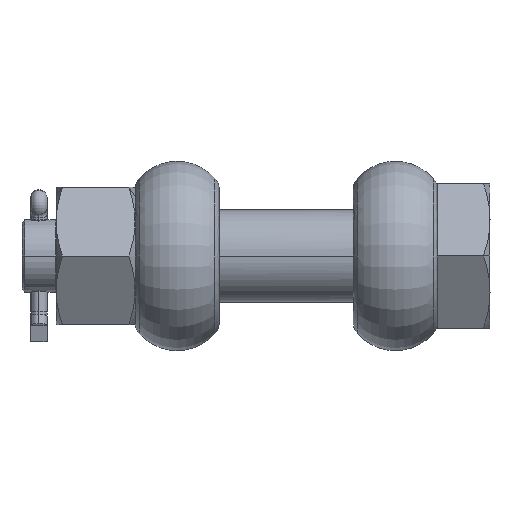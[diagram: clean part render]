
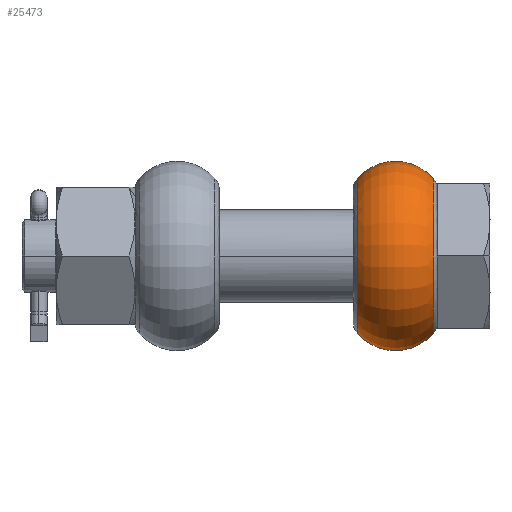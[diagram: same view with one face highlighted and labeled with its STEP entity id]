
A CAD part, front view. The second image highlights one B-rep face of the part: STEP entity #25473.
In plain terms, the highlighted toroidal (fillet/blend) face has major radius 16.8 mm and minor radius 19.2 mm.
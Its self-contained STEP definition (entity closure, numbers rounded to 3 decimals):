
#16616 = TOROIDAL_SURFACE ( 'NONE', #16684, 16.8, 19.2 ) ;
#16621 = FACE_OUTER_BOUND ( 'NONE', #25476, .T. ) ;
#16679 = DIRECTION ( 'NONE',  ( 0., 0., -1. ) ) ;
#16681 = DIRECTION ( 'NONE',  ( 1., 0., 0. ) ) ;
#16682 = CARTESIAN_POINT ( 'NONE',  ( 41.5, 0., 0. ) ) ;
#16684 = AXIS2_PLACEMENT_3D ( 'NONE', #16682, #16681, #16679 ) ;
#16789 = DIRECTION ( 'NONE',  ( 0., -1., 0. ) ) ;
#16790 = DIRECTION ( 'NONE',  ( 1., 0., 0. ) ) ;
#16791 = CARTESIAN_POINT ( 'NONE',  ( 55.9, 0., 0. ) ) ;
#16792 = AXIS2_PLACEMENT_3D ( 'NONE', #16791, #16790, #16789 ) ;
#16793 = CIRCLE ( 'NONE', #16792, 29.5 ) ;
#16795 = DIRECTION ( 'NONE',  ( 1., 0., 0. ) ) ;
#16797 = DIRECTION ( 'NONE',  ( 0., -1., 0. ) ) ;
#16798 = CARTESIAN_POINT ( 'NONE',  ( 41.5, 0., -16.8 ) ) ;
#16799 = AXIS2_PLACEMENT_3D ( 'NONE', #16798, #16797, #16795 ) ;
#16800 = CIRCLE ( 'NONE', #16799, 19.2 ) ;
#16896 = CARTESIAN_POINT ( 'NONE',  ( 55.9, 0., -29.5 ) ) ;
#16897 = CARTESIAN_POINT ( 'NONE',  ( 27.1, 0., -29.5 ) ) ;
#16898 = DIRECTION ( 'NONE',  ( 0., 0., -1. ) ) ;
#16899 = DIRECTION ( 'NONE',  ( 1., 0., 0. ) ) ;
#16900 = CARTESIAN_POINT ( 'NONE',  ( 27.1, 0., 0. ) ) ;
#16901 = AXIS2_PLACEMENT_3D ( 'NONE', #16900, #16899, #16898 ) ;
#16902 = CIRCLE ( 'NONE', #16901, 29.5 ) ;
#17249 = CARTESIAN_POINT ( 'NONE',  ( 27.1, 0., 29.5 ) ) ;
#17353 = CARTESIAN_POINT ( 'NONE',  ( 55.9, 0., 29.5 ) ) ;
#17465 = DIRECTION ( 'NONE',  ( -1., 0., 0. ) ) ;
#17466 = DIRECTION ( 'NONE',  ( 0., 1., 0. ) ) ;
#17467 = AXIS2_PLACEMENT_3D ( 'NONE', #17476, #17466, #17465 ) ;
#17468 = CIRCLE ( 'NONE', #17467, 19.2 ) ;
#17476 = CARTESIAN_POINT ( 'NONE',  ( 41.5, 0., 16.8 ) ) ;
#25473 = ADVANCED_FACE ( 'NONE', ( #16621 ), #16616, .T. ) ;
#25476 = EDGE_LOOP ( 'NONE', ( #25479, #25609, #25488, #25490 ) ) ;
#25479 = ORIENTED_EDGE ( 'NONE', *, *, #26140, .F. ) ;
#25488 = ORIENTED_EDGE ( 'NONE', *, *, #25489, .T. ) ;
#25489 = EDGE_CURVE ( 'NONE', #25612, #25613, #16800, .T. ) ;
#25490 = ORIENTED_EDGE ( 'NONE', *, *, #25491, .F. ) ;
#25491 = EDGE_CURVE ( 'NONE', #26073, #25613, #16793, .T. ) ;
#25609 = ORIENTED_EDGE ( 'NONE', *, *, #25611, .T. ) ;
#25611 = EDGE_CURVE ( 'NONE', #25967, #25612, #16902, .T. ) ;
#25612 = VERTEX_POINT ( 'NONE', #16897 ) ;
#25613 = VERTEX_POINT ( 'NONE', #16896 ) ;
#25967 = VERTEX_POINT ( 'NONE', #17249 ) ;
#26073 = VERTEX_POINT ( 'NONE', #17353 ) ;
#26140 = EDGE_CURVE ( 'NONE', #25967, #26073, #17468, .T. ) ;
